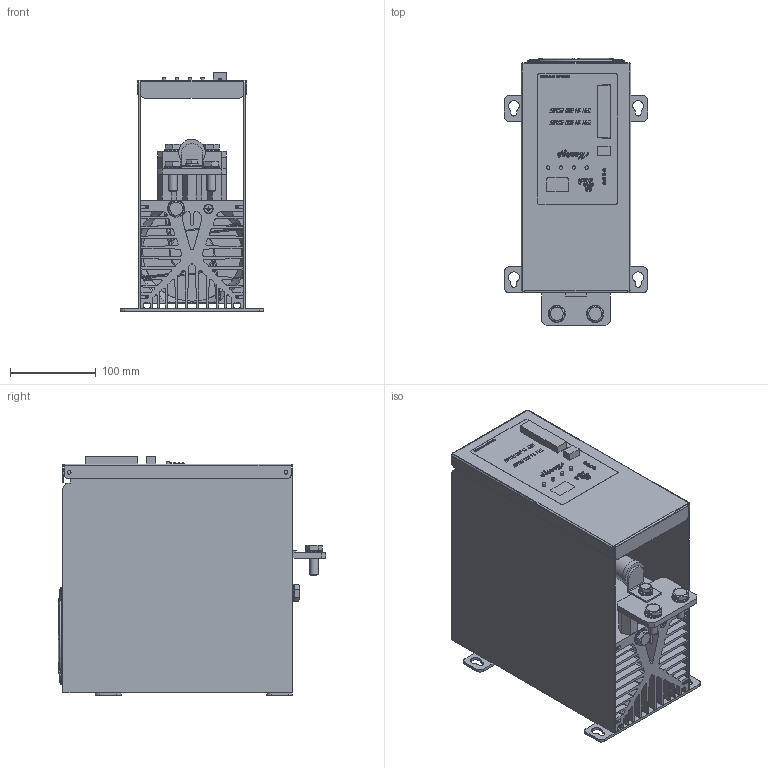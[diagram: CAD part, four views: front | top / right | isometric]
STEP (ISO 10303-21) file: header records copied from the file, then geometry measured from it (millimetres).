
FILE_DESCRIPTION(('STEP AP203'), '1');
FILE_NAME('ÒÐÌ 1Ì-300...380 RS485', '2025-06-10T05:59:05', (''), ('ÎÎÎ "Ìåàíäð"'), 'C3D Converter', 'C3D Toolkit', '');
FILE_SCHEMA(('CONFIG_CONTROL_DESIGN'));
Length unit declared in the file: millimetre
Products named in the file (5): ТРМ 1М 300; M10x30; 8Х18; 1М-300
Assembly tree (9 placements, depth 2):
  (unnamed)
    ТРМ 1М 300
    M10x30  x5
    8Х18  x2
    1М-300
Bounding box: 167 x 312.5 x 278.9 mm (x, y, z)
Volume: 2917188.7 mm3; surface area: 1132480.6 mm2
Topology: 7 solids, 13 shells, 3946 faces, 11552 edges, 7613 vertices
Faces by surface type: plane 2151, extrusion 1182, cylinder 514, torus 51, cone 32, bspline 16
Full cylindrical faces by diameter (mm): 1.8 x3, 3.5 x4, 4 x8, 4.2 x4, 4.572 x8, 8 x8, 8.4 x2, 9 x4, 10 x11, 10.9 x1, 11.6 x2, 15.6 x5, 16 x4, 28.5 x1, 31 x2, 115 x1, 115.062 x1, 118.662 x1
Entity records: 192622 total; most frequent: CARTESIAN_POINT 64680, ORIENTED_EDGE 22156, DIRECTION 16063, EDGE_CURVE 11078, VECTOR 8519, VERTEX_POINT 7382, LINE 7337, EDGE_LOOP 4131
